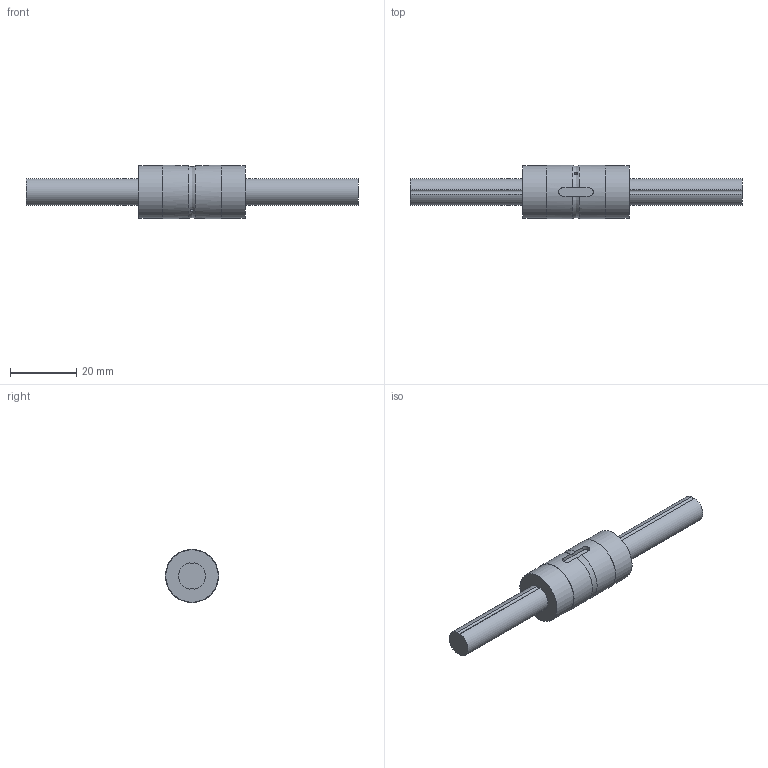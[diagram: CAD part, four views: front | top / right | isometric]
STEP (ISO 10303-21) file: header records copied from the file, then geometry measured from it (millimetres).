
FILE_DESCRIPTION((''),'2;1');
FILE_NAME('C:\Documents and Settings\土屋\My Documents\土屋移動用フォルダ\製品 (図面)\カタログ用3D\ボールスプライン\BSP\BSP8.stp','2015-02-23T13:26:09',('y'),(''),'Autodesk Inventor 11','Autodesk Inventor 11','');
FILE_SCHEMA(('AUTOMOTIVE_DESIGN { 1 0 10303 214 1 1 1 1 }'));
Length unit declared in the file: millimetre
Products named in the file (3): BSP8; BSP8軸; BSP8ナット
Assembly tree (2 placements, depth 2):
  BSP8
    BSP8軸
    BSP8ナット
Bounding box: 100 x 16 x 16 mm (x, y, z)
Volume: 9687.1 mm3; surface area: 5412.6 mm2
Topology: 2 solids, 2 shells, 28 faces, 62 edges, 42 vertices
Faces by surface type: cylinder 15, plane 10, bspline 3
Full cylindrical faces by diameter (mm): 1 x1, 15.8 x2, 16 x2
Entity records: 1067 total; most frequent: CARTESIAN_POINT 399, DIRECTION 134, ORIENTED_EDGE 108, AXIS2_PLACEMENT_3D 58, EDGE_CURVE 54, VERTEX_POINT 40, EDGE_LOOP 40, CIRCLE 28
